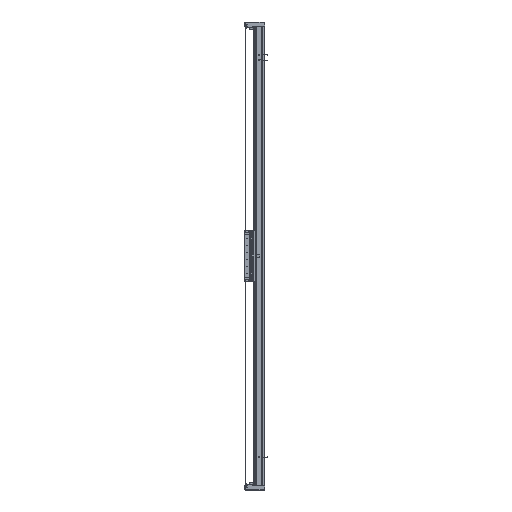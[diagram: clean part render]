
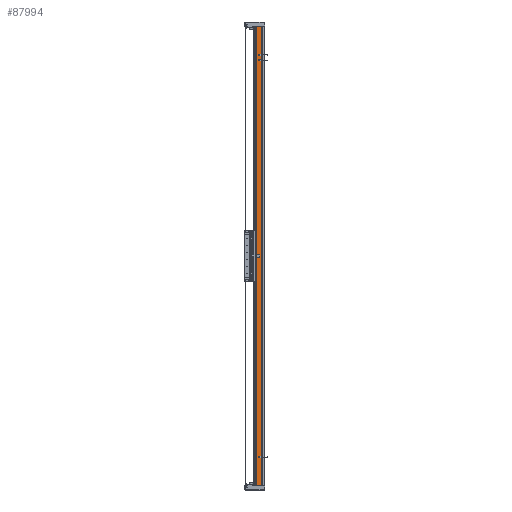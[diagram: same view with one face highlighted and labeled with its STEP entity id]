
A CAD part, left-side view. The second image highlights one B-rep face of the part: STEP entity #87994.
In plain terms, the highlighted planar face has unit normal (-1, 0, 0).
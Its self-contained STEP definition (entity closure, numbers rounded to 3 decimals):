
#436 = VERTEX_POINT ( 'NONE', #9123 ) ;
#3355 = EDGE_CURVE ( 'NONE', #92326, #105763, #69897, .T. ) ;
#3499 = ORIENTED_EDGE ( 'NONE', *, *, #3355, .T. ) ;
#3862 = EDGE_CURVE ( 'NONE', #105763, #53673, #102489, .T. ) ;
#9123 = CARTESIAN_POINT ( 'NONE',  ( -82.5, 14.45, 1110. ) ) ;
#11638 = VECTOR ( 'NONE', #50112, 1000. ) ;
#25488 = ORIENTED_EDGE ( 'NONE', *, *, #29953, .F. ) ;
#25879 = PLANE ( 'NONE',  #125180 ) ;
#29953 = EDGE_CURVE ( 'NONE', #92326, #436, #116475, .T. ) ;
#34791 = CARTESIAN_POINT ( 'NONE',  ( -82.5, 36.95, 1110. ) ) ;
#42439 = DIRECTION ( 'NONE',  ( 0., -1., 0. ) ) ;
#45689 = DIRECTION ( 'NONE',  ( 0., 1., 0. ) ) ;
#50112 = DIRECTION ( 'NONE',  ( 0., 0., -1. ) ) ;
#52307 = DIRECTION ( 'NONE',  ( 0., -1., 0. ) ) ;
#53673 = VERTEX_POINT ( 'NONE', #89244 ) ;
#57315 = EDGE_LOOP ( 'NONE', ( #61831, #102962, #25488, #3499 ) ) ;
#61831 = ORIENTED_EDGE ( 'NONE', *, *, #3862, .T. ) ;
#62550 = CARTESIAN_POINT ( 'NONE',  ( -82.5, 36.95, 1110. ) ) ;
#68440 = CARTESIAN_POINT ( 'NONE',  ( -82.5, 36.95, -1110. ) ) ;
#69218 = CARTESIAN_POINT ( 'NONE',  ( -82.5, 36.95, 1110. ) ) ;
#69897 = LINE ( 'NONE', #69218, #11638 ) ;
#78574 = DIRECTION ( 'NONE',  ( 0., 0., -1. ) ) ;
#84579 = EDGE_CURVE ( 'NONE', #436, #53673, #99067, .T. ) ;
#87994 = ADVANCED_FACE ( 'NONE', ( #119387 ), #25879, .F. ) ;
#89244 = CARTESIAN_POINT ( 'NONE',  ( -82.5, 14.45, -1110. ) ) ;
#90143 = VECTOR ( 'NONE', #42439, 1000. ) ;
#92326 = VERTEX_POINT ( 'NONE', #100641 ) ;
#97526 = DIRECTION ( 'NONE',  ( 1., 0., 0. ) ) ;
#99067 = LINE ( 'NONE', #120910, #104783 ) ;
#100641 = CARTESIAN_POINT ( 'NONE',  ( -82.5, 36.95, 1110. ) ) ;
#102489 = LINE ( 'NONE', #122976, #90143 ) ;
#102962 = ORIENTED_EDGE ( 'NONE', *, *, #84579, .F. ) ;
#104783 = VECTOR ( 'NONE', #78574, 1000. ) ;
#105763 = VERTEX_POINT ( 'NONE', #68440 ) ;
#116475 = LINE ( 'NONE', #62550, #124088 ) ;
#119387 = FACE_OUTER_BOUND ( 'NONE', #57315, .T. ) ;
#120910 = CARTESIAN_POINT ( 'NONE',  ( -82.5, 14.45, 1110. ) ) ;
#122976 = CARTESIAN_POINT ( 'NONE',  ( -82.5, 36.95, -1110. ) ) ;
#124088 = VECTOR ( 'NONE', #52307, 1000. ) ;
#125180 = AXIS2_PLACEMENT_3D ( 'NONE', #34791, #97526, #45689 ) ;
